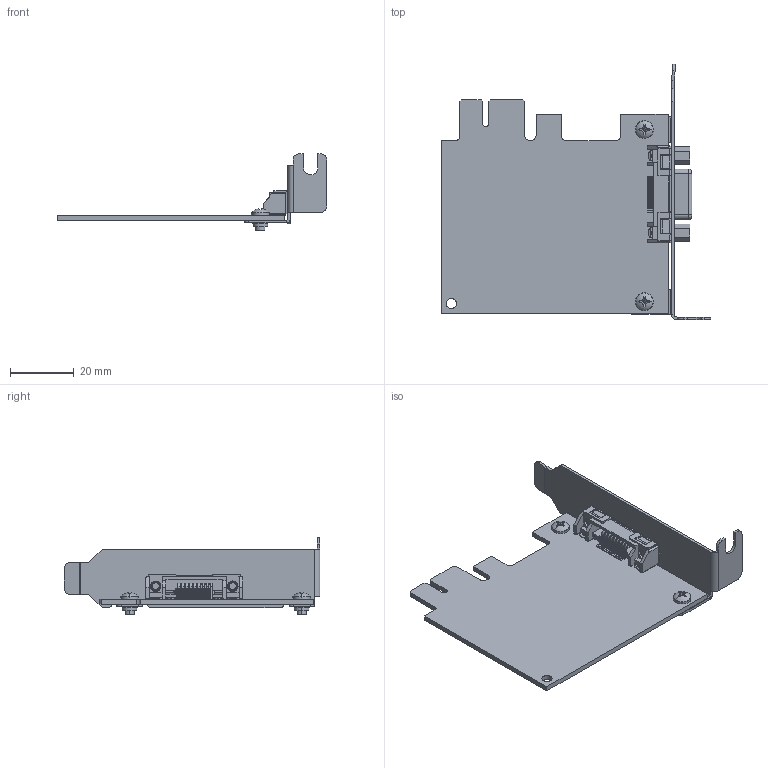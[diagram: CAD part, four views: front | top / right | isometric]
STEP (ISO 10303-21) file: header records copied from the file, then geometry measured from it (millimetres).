
FILE_DESCRIPTION((''),'2;1');
FILE_NAME('CU_CCA_PCIE-8361-LP-SW','2014-02-26T',('gvillanu'),(''),'PRO/ENGINEER BY PARAMETRIC TECHNOLOGY CORPORATION, 2011490','PRO/ENGINEER BY PARAMETRIC TECHNOLOGY CORPORATION, 2011490','');
FILE_SCHEMA(('CONFIG_CONTROL_DESIGN'));
Products named in the file (1): CU_CCA_PCIE-8361-LP-SW
Bounding box: 84.45 x 80.09 x 24.04 mm (x, y, z)
Surface area: 14919 mm2 (no closed solid volume)
Topology: 0 solids, 13 shells, 1546 faces, 5185 edges, 3461 vertices
Faces by surface type: plane 932, cylinder 502, bspline 74, torus 22, cone 12, sphere 4
Entity records: 57611 total; most frequent: CARTESIAN_POINT 14581, ORIENTED_EDGE 8703, DIRECTION 8192, EDGE_CURVE 5141, VECTOR 3660, LINE 3660, VERTEX_POINT 3499, AXIS2_PLACEMENT_3D 2266
